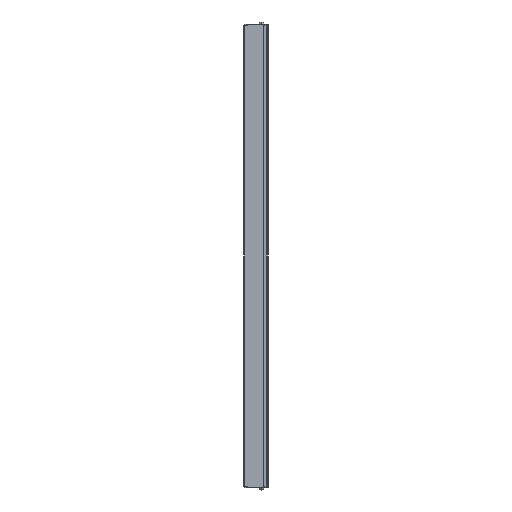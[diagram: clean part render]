
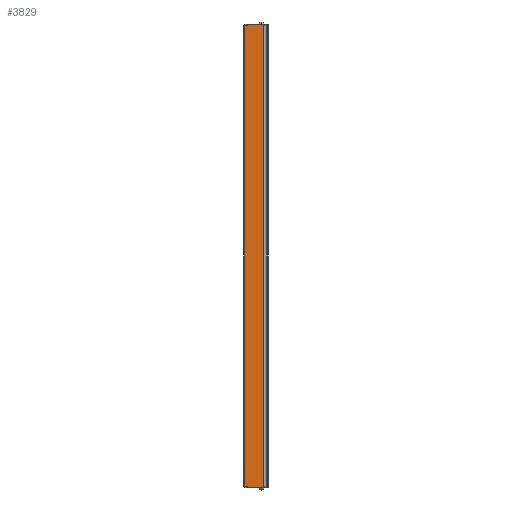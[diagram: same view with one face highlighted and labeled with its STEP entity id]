
A CAD part, left-side view. The second image highlights one B-rep face of the part: STEP entity #3829.
In plain terms, the highlighted planar face has unit normal (-1, 0, 0).
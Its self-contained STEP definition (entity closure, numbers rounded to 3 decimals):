
#514=DIRECTION('',(0.,1.,0.));
#515=VECTOR('',#514,3.303);
#516=CARTESIAN_POINT('',(-14.,13.197,252.));
#517=LINE('',#516,#515);
#875=DIRECTION('',(0.,1.,0.));
#876=VECTOR('',#875,17.497);
#877=CARTESIAN_POINT('',(-14.,-4.3,253.));
#878=LINE('',#877,#876);
#883=DIRECTION('',(0.,0.,1.));
#884=VECTOR('',#883,506.);
#885=CARTESIAN_POINT('',(-14.,-4.3,-253.));
#886=LINE('',#885,#884);
#1201=DIRECTION('',(0.,0.,-1.));
#1202=VECTOR('',#1201,504.);
#1203=CARTESIAN_POINT('',(-14.,16.5,252.));
#1204=LINE('',#1203,#1202);
#1205=DIRECTION('',(0.,0.,1.));
#1206=VECTOR('',#1205,1.);
#1207=CARTESIAN_POINT('',(-14.,13.197,-253.));
#1208=LINE('',#1207,#1206);
#1209=DIRECTION('',(0.,1.,0.));
#1210=VECTOR('',#1209,3.303);
#1211=CARTESIAN_POINT('',(-14.,13.197,-252.));
#1212=LINE('',#1211,#1210);
#1213=DIRECTION('',(0.,0.,1.));
#1214=VECTOR('',#1213,1.);
#1215=CARTESIAN_POINT('',(-14.,13.197,252.));
#1216=LINE('',#1215,#1214);
#1221=DIRECTION('',(0.,-1.,0.));
#1222=VECTOR('',#1221,17.497);
#1223=CARTESIAN_POINT('',(-14.,13.197,-253.));
#1224=LINE('',#1223,#1222);
#1809=CARTESIAN_POINT('',(-14.,16.5,-252.));
#1810=VERTEX_POINT('',#1809);
#1819=CARTESIAN_POINT('',(-14.,16.5,252.));
#1820=VERTEX_POINT('',#1819);
#2025=CARTESIAN_POINT('',(-14.,13.197,253.));
#2026=VERTEX_POINT('',#2025);
#2051=CARTESIAN_POINT('',(-14.,-4.3,253.));
#2052=VERTEX_POINT('',#2051);
#2097=CARTESIAN_POINT('',(-14.,13.197,252.));
#2099=VERTEX_POINT('',#2097);
#2283=CARTESIAN_POINT('',(-14.,13.197,-253.));
#2284=VERTEX_POINT('',#2283);
#2285=CARTESIAN_POINT('',(-14.,-4.3,-253.));
#2286=VERTEX_POINT('',#2285);
#2327=CARTESIAN_POINT('',(-14.,13.197,-252.));
#2328=VERTEX_POINT('',#2327);
#3812=CARTESIAN_POINT('',(-14.,16.5,-252.));
#3813=DIRECTION('',(-1.,0.,0.));
#3814=DIRECTION('',(0.,-1.,0.));
#3815=AXIS2_PLACEMENT_3D('',#3812,#3813,#3814);
#3816=PLANE('',#3815);
#3817=ORIENTED_EDGE('',*,*,#3237,.F.);
#3819=ORIENTED_EDGE('',*,*,#3818,.F.);
#3821=ORIENTED_EDGE('',*,*,#3820,.T.);
#3822=ORIENTED_EDGE('',*,*,#2446,.T.);
#3823=ORIENTED_EDGE('',*,*,#3807,.F.);
#3824=ORIENTED_EDGE('',*,*,#2884,.F.);
#3825=ORIENTED_EDGE('',*,*,#3207,.T.);
#3826=ORIENTED_EDGE('',*,*,#3222,.F.);
#3827=EDGE_LOOP('',(#3817,#3819,#3821,#3822,#3823,#3824,#3825,#3826));
#3828=FACE_OUTER_BOUND('',#3827,.F.);
#2446=EDGE_CURVE('',#2328,#1810,#1212,.T.);
#2884=EDGE_CURVE('',#2099,#1820,#517,.T.);
#3207=EDGE_CURVE('',#2099,#2026,#1216,.T.);
#3222=EDGE_CURVE('',#2052,#2026,#878,.T.);
#3237=EDGE_CURVE('',#2286,#2052,#886,.T.);
#3807=EDGE_CURVE('',#1820,#1810,#1204,.T.);
#3818=EDGE_CURVE('',#2284,#2286,#1224,.T.);
#3820=EDGE_CURVE('',#2284,#2328,#1208,.T.);
#3829=ADVANCED_FACE('',(#3828),#3816,.T.);
